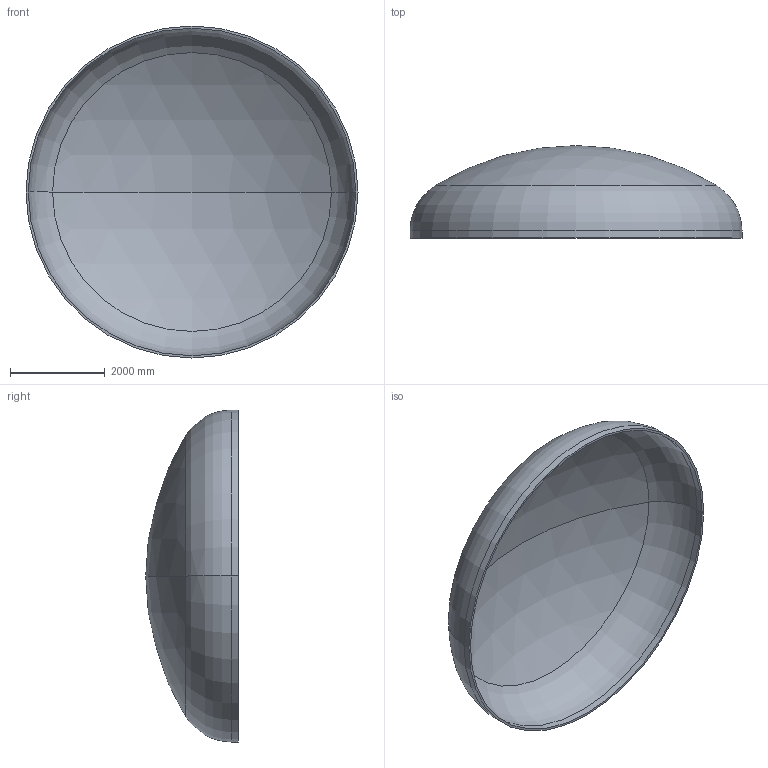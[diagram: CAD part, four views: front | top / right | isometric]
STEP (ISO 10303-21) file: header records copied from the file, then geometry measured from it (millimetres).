
FILE_DESCRIPTION (( 'STEP AP203' ), '1' );
FILE_NAME ('DIN 28013 Korbbogenform_-_Boden DIN 28013 - 7000 x 150 - I - s=47.step', '2016-07-04T10:47:46', ( '' ), ( '' ), 'SwSTEP 2.0', 'SolidWorks 2013', '' );
FILE_SCHEMA (( 'CONFIG_CONTROL_DESIGN' ));
Length unit declared in the file: millimetre
Products named in the file (1): DIN 28013 Korbbogenform_-_Boden DIN 28013 - 7000 x 150 - I - s=47
Bounding box: 7000 x 1950.02 x 7000 mm (x, y, z)
Volume: 2637916448.8 mm3; surface area: 113282991.3 mm2
Topology: 1 solids, 1 shells, 13 faces, 24 edges, 14 vertices
Faces by surface type: torus 4, cylinder 4, sphere 4, plane 1
Entity records: 407 total; most frequent: DIRECTION 72, CARTESIAN_POINT 52, ORIENTED_EDGE 48, AXIS2_PLACEMENT_3D 34, EDGE_CURVE 24, CIRCLE 20, VERTEX_POINT 14, EDGE_LOOP 14
